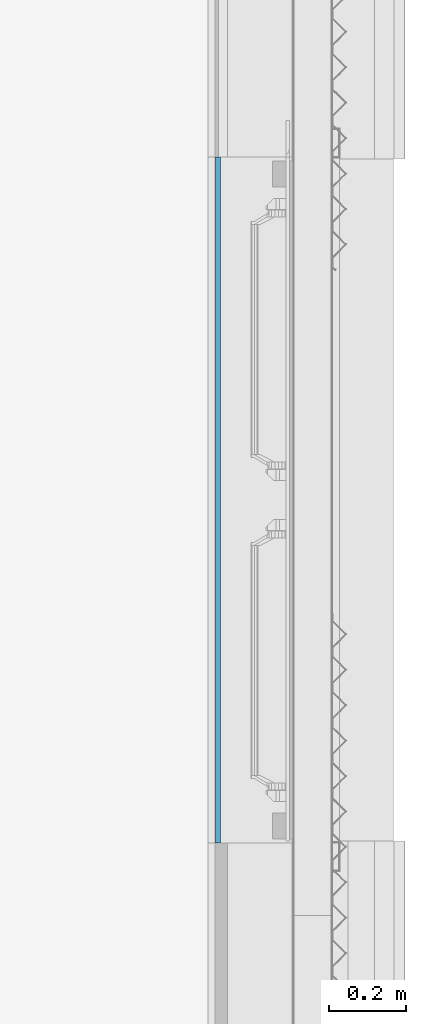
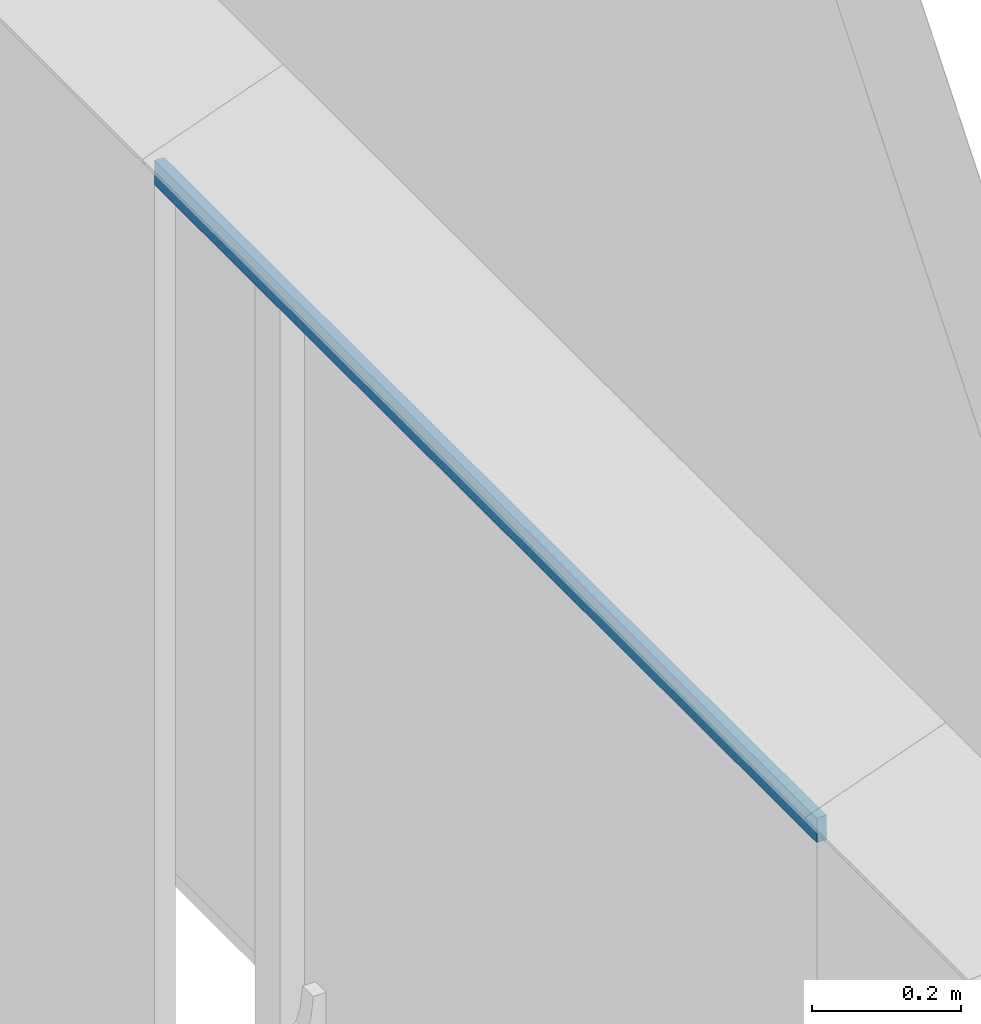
# One storey, part 48 of 338: 1 wall.
"""IFC2X3 building model written with IfcOpenShell, lengths in millimetres."""

from ifc_helpers import new_model, entity, si_unit, converted_unit, derived_unit, money_unit, direction, frame, origin_with_axes, place, context, subcontext, project, spatial, faceted_brep, material, type_object, element, save


model = new_model("IFC2X3")

# Units and contexts
model_context = context("Model", 3, precision=0.01, world=origin_with_axes(), true_north=direction((0.0, 1.0)))
plan_context = context("Plan", 3, precision=0.01, world=origin_with_axes(), true_north=direction((0.0, 1.0)))
body_context = subcontext(model_context, "Body", "Model", "MODEL_VIEW")
ifc_project = project(units=[si_unit("LENGTHUNIT", "METRE", prefix="MILLI"), si_unit("AREAUNIT", "SQUARE_METRE"), si_unit("VOLUMEUNIT", "CUBIC_METRE"), converted_unit("PLANEANGLEUNIT", "DEGREE", entity("IfcPlaneAngleMeasure", 0.0174532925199), si_unit("PLANEANGLEUNIT", "RADIAN"), dimensions=[0, 0, 0, 0, 0, 0, 0]), money_unit("EUR"), converted_unit("TIMEUNIT", "Year", entity("IfcTimeMeasure", 31556926.0), si_unit("TIMEUNIT", "SECOND"), dimensions=[0, 0, 1, 0, 0, 0, 0]), si_unit("MASSUNIT", "GRAM", prefix="KILO"), si_unit("THERMODYNAMICTEMPERATUREUNIT", "DEGREE_CELSIUS"), si_unit("LUMINOUSINTENSITYUNIT", "LUMEN"), si_unit("ENERGYUNIT", "JOULE", prefix="MEGA"), derived_unit("THERMALCONDUCTANCEUNIT", [(si_unit("POWERUNIT", "WATT"), 1), (si_unit("LENGTHUNIT", "METRE"), -1), (si_unit("THERMODYNAMICTEMPERATUREUNIT", "KELVIN"), -1)]), derived_unit("SPECIFICHEATCAPACITYUNIT", [(si_unit("ENERGYUNIT", "JOULE"), 1), (si_unit("MASSUNIT", "GRAM", prefix="KILO"), -1), (si_unit("THERMODYNAMICTEMPERATUREUNIT", "KELVIN"), -1)]), derived_unit("MASSDENSITYUNIT", [(si_unit("MASSUNIT", "GRAM", prefix="KILO"), 1), (si_unit("VOLUMEUNIT", "CUBIC_METRE"), -1)])], contexts=[model_context, plan_context])

# Site, building, storey
site_placement = place(None, origin_with_axes())
site = spatial("IfcSite", under=ifc_project, at=site_placement, Name="Fortuinstraat Woensdrecht", CompositionType="ELEMENT")
building_placement = place(site_placement, origin_with_axes())
building = spatial("IfcBuilding", under=site, at=building_placement, Name="IKC Fortuna", CompositionType="ELEMENT")
storey_placement = place(building_placement, origin_with_axes())
storey = spatial("IfcBuildingStorey", under=building, at=storey_placement, Name="00 begane grond", CompositionType="ELEMENT", Elevation=0.0)

# Wall
ifc_material = material(Name="Hout - Multiplex 90")
wall_type = type_object("IfcWallType", Name="Hout - Multiplex 90 15", PredefinedType="NOTDEFINED")
wall_placement = place(storey_placement, frame((59244.4270571, 32370.3126656, 2400.0), z_axis=(0.0, 0.0, 1.0), x_axis=(0.0, 1.0, 0.0)))
element("IfcWall", 1, at=wall_placement, inside=storey, type_object=wall_type, material=ifc_material, Name="22_Wand_Vilton Isonic Wool", context=body_context, shape_type="Brep", body=[
    faceted_brep([(0.0, 0.0, 40.0000000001), (1779.98396264, 0.0, 40.0000000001), (1779.98396264, 15.0, 40.0000000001), (0.0, 15.0, 40.0000000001), (0.0, 0.0, 0.0), (1779.98396264, 0.0, 0.0), (1779.98396264, 15.0, 0.0), (0.0, 15.0, 0.0)], [[[0, 1, 2, 3]], [[4, 5, 1, 0]], [[2, 1, 5, 6]], [[3, 2, 6, 7]], [[4, 0, 3, 7]], [[7, 6, 5, 4]]]),
])

save(model, "model.ifc")
